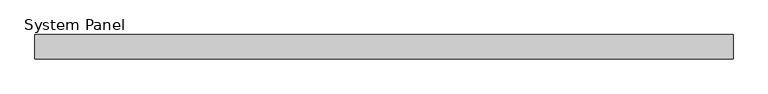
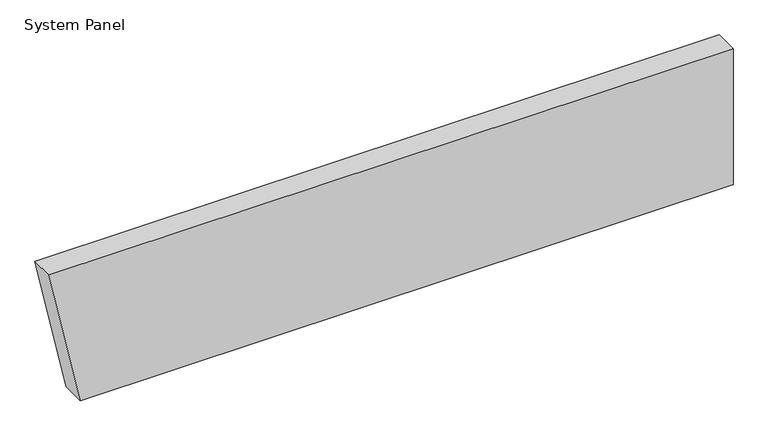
"""IFC4 building model written with IfcOpenShell, lengths in millimetres: plate geometry, System Panel : Equitilt 200mm Horizontal - Plain RHEA - EPS-FR."""

from ifc_helpers import new_model, si_unit, frame, origin, place, context, project, spatial, polyline, outline, extrude, source, transform, mapped, element, save


def system_panel_2ec3f56c(model_context):
    return source(origin(), model_context, "Body", "SweptSolid", [
        extrude(outline(polyline([(0.0, -2590.0), (0.0, 2850.8716619), (1200.0, 2850.8716619), (1200.0, -2850.8716619), (0.0, -2590.0)])), frame((0.0, -200.0, 0.0), z_axis=(0.0, 1.0, 0.0), x_axis=(0.0, 0.0, 1.0)), (0.0, 0.0, 1.0), 200.0),
    ])


if __name__ == "__main__":
    model = new_model("IFC4")
    model_context = context("Model", 3, world=origin())
    ifc_project = project(units=[si_unit("LENGTHUNIT", "METRE", prefix="MILLI")], contexts=[model_context])
    site = spatial("IfcSite", under=ifc_project)
    building = spatial("IfcBuilding", under=site)
    placement = place(None, origin())
    system_panel_shape = system_panel_2ec3f56c(model_context)
    element("IfcPlate", 1, ObjectType="System Panel : Equitilt 200mm Horizontal - Plain RHEA - EPS-FR", at=placement, inside=building, context=model_context, shape_type="MappedRepresentation", body=[
        mapped(system_panel_shape, transform((0.0, 0.0, 0.0), x_axis=(1.0, 0.0, 0.0), y_axis=(0.0, 1.0, 0.0), z_axis=(0.0, 0.0, 1.0))),
    ])
    save(model, "model.ifc")
